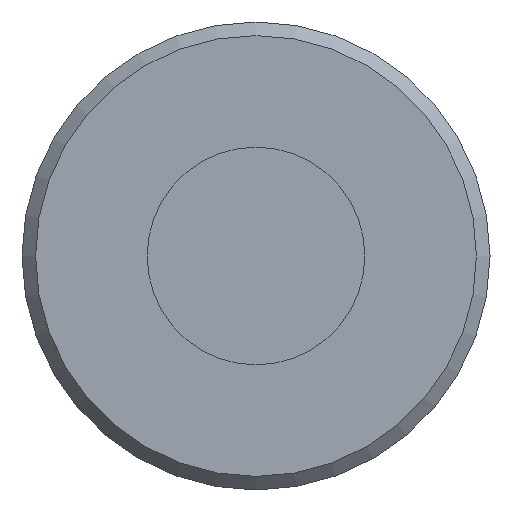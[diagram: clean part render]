
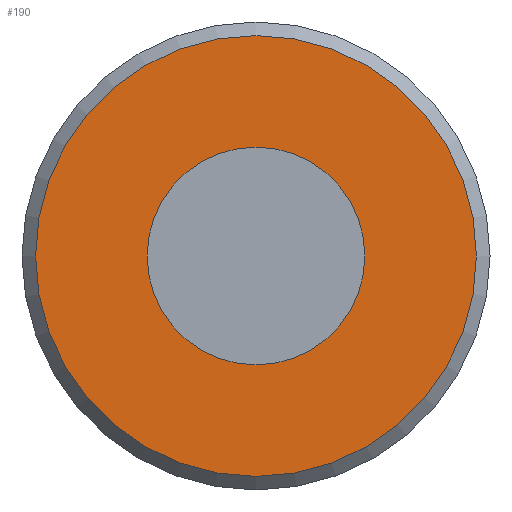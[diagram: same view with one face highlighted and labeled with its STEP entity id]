
A CAD part, left-side view. The second image highlights one B-rep face of the part: STEP entity #190.
In plain terms, the highlighted planar face has unit normal (-1, 0, 0).
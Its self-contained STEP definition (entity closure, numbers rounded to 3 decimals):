
#19=PLANE($,#219);
#33=FACE_BOUND($,#70,.T.);
#34=FACE_BOUND($,#71,.T.);
#70=EDGE_LOOP($,(#145));
#71=EDGE_LOOP($,(#146));
#86=CIRCLE($,#207,1.016);
#92=CIRCLE($,#220,2.057);
#101=VERTEX_POINT($,#307);
#107=VERTEX_POINT($,#326);
#116=EDGE_CURVE($,#101,#101,#86,.T.);
#122=EDGE_CURVE($,#107,#107,#92,.T.);
#145=ORIENTED_EDGE($,*,*,#116,.T.);
#146=ORIENTED_EDGE($,*,*,#122,.F.);
#190=ADVANCED_FACE($,(#33,#34),#19,.T.);
#207=AXIS2_PLACEMENT_3D($,#308,#248,#249);
#219=AXIS2_PLACEMENT_3D($,#325,#272,#273);
#220=AXIS2_PLACEMENT_3D($,#327,#274,#275);
#248=DIRECTION('center_axis',(1.,0.,0.));
#249=DIRECTION('ref_axis',(0.,1.,0.));
#272=DIRECTION('center_axis',(-1.,0.,0.));
#273=DIRECTION('ref_axis',(0.,0.,1.));
#274=DIRECTION('center_axis',(1.,0.,0.));
#275=DIRECTION('ref_axis',(0.,-1.,0.));
#307=CARTESIAN_POINT('',(-5.774,1.535,0.));
#308=CARTESIAN_POINT('Origin',(-5.774,0.519,0.));
#325=CARTESIAN_POINT('Origin',(-5.774,1.611,0.));
#326=CARTESIAN_POINT('',(-5.774,2.576,0.));
#327=CARTESIAN_POINT('Origin',(-5.774,0.519,0.));
